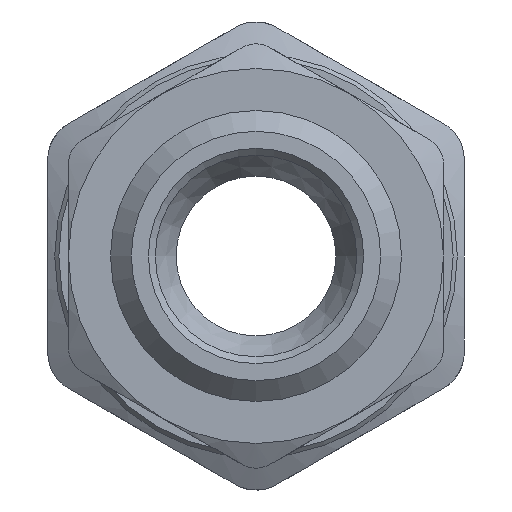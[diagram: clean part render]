
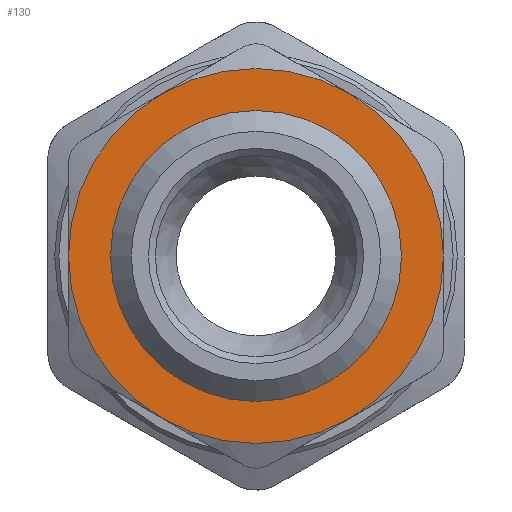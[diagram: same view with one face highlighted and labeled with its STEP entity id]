
A CAD part, front view. The second image highlights one B-rep face of the part: STEP entity #130.
In plain terms, the highlighted planar face has unit normal (0, -1, 0).
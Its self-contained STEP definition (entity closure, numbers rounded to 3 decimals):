
#130=ADVANCED_FACE('',(#942,#944),#946,.T.);
#942=FACE_BOUND('',#943,.T.);
#943=EDGE_LOOP('',(#2867,#2868,#2869,#2870,#2871));
#944=FACE_BOUND('',#945,.T.);
#945=EDGE_LOOP('',(#2872));
#946=PLANE('',#947);
#947=AXIS2_PLACEMENT_3D('',#948,#949,#950);
#948=CARTESIAN_POINT('',(0.,14.,0.));
#949=DIRECTION('',(0.,-1.,0.));
#950=DIRECTION('',(1.,0.,0.));
#2867=ORIENTED_EDGE('',*,*,#4590,.T.);
#2868=ORIENTED_EDGE('',*,*,#4589,.T.);
#2869=ORIENTED_EDGE('',*,*,#4588,.T.);
#2870=ORIENTED_EDGE('',*,*,#4587,.T.);
#2871=ORIENTED_EDGE('',*,*,#4591,.T.);
#2872=ORIENTED_EDGE('',*,*,#4596,.T.);
#4587=EDGE_CURVE('',#5445,#5483,#5495,.F.);
#4588=EDGE_CURVE('',#5453,#5445,#5496,.F.);
#4589=EDGE_CURVE('',#5461,#5453,#5497,.F.);
#4590=EDGE_CURVE('',#5469,#5461,#5498,.F.);
#4591=EDGE_CURVE('',#5483,#5469,#5499,.F.);
#4596=EDGE_CURVE('',#5508,#5508,#5509,.T.);
#5445=VERTEX_POINT('',#7907);
#5453=VERTEX_POINT('',#8009);
#5461=VERTEX_POINT('',#8099);
#5469=VERTEX_POINT('',#8189);
#5483=VERTEX_POINT('',#8378);
#5495=CIRCLE('',#8479,13.5);
#5496=CIRCLE('',#8483,13.5);
#5497=CIRCLE('',#8487,13.5);
#5498=CIRCLE('',#8491,13.5);
#5499=CIRCLE('',#8495,13.5);
#5508=VERTEX_POINT('',#8519);
#5509=CIRCLE('',#8520,10.478);
#7907=CARTESIAN_POINT('',(-13.5,14.,0.));
#8009=CARTESIAN_POINT('',(-6.75,14.,11.691));
#8099=CARTESIAN_POINT('',(6.75,14.,11.691));
#8189=CARTESIAN_POINT('',(13.5,14.,0.));
#8378=CARTESIAN_POINT('',(-6.75,14.,-11.691));
#8479=AXIS2_PLACEMENT_3D('',#8480,#8481,#8482);
#8480=CARTESIAN_POINT('',(0.,14.,0.));
#8481=DIRECTION('',(0.,1.,0.));
#8482=DIRECTION('',(-0.5,0.,-0.866));
#8483=AXIS2_PLACEMENT_3D('',#8484,#8485,#8486);
#8484=CARTESIAN_POINT('',(0.,14.,0.));
#8485=DIRECTION('',(0.,1.,0.));
#8486=DIRECTION('',(-1.,0.,0.));
#8487=AXIS2_PLACEMENT_3D('',#8488,#8489,#8490);
#8488=CARTESIAN_POINT('',(0.,14.,0.));
#8489=DIRECTION('',(0.,1.,0.));
#8490=DIRECTION('',(-0.5,0.,0.866));
#8491=AXIS2_PLACEMENT_3D('',#8492,#8493,#8494);
#8492=CARTESIAN_POINT('',(0.,14.,0.));
#8493=DIRECTION('',(0.,1.,0.));
#8494=DIRECTION('',(0.5,0.,0.866));
#8495=AXIS2_PLACEMENT_3D('',#8496,#8497,#8498);
#8496=CARTESIAN_POINT('',(0.,14.,0.));
#8497=DIRECTION('',(0.,1.,0.));
#8498=DIRECTION('',(1.,0.,0.));
#8519=CARTESIAN_POINT('',(-10.478,14.,0.));
#8520=AXIS2_PLACEMENT_3D('',#8521,#8522,#8523);
#8521=CARTESIAN_POINT('',(0.,14.,0.));
#8522=DIRECTION('',(0.,1.,0.));
#8523=DIRECTION('',(-1.,0.,0.));
